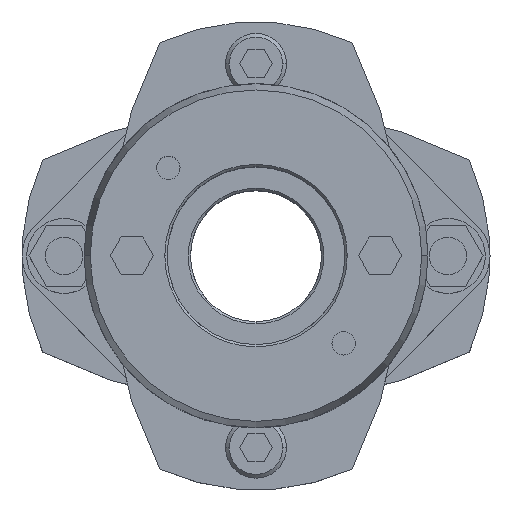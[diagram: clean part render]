
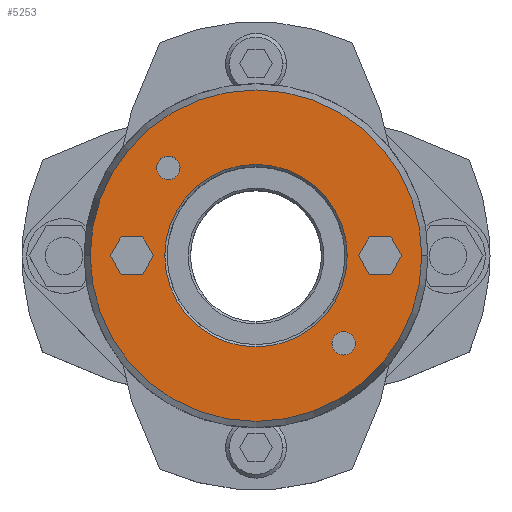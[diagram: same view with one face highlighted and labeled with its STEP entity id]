
A CAD part, top view. The second image highlights one B-rep face of the part: STEP entity #5253.
In plain terms, the highlighted planar face has unit normal (0, 0, 1).
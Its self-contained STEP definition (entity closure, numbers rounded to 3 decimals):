
#857=CARTESIAN_POINT('',(-19.5,0.,42.0));
#858=VERTEX_POINT('',#857);
#874=CARTESIAN_POINT('',(19.5,0.,42.0));
#875=VERTEX_POINT('',#874);
#882=CARTESIAN_POINT('',(0.,0.,42.0));
#883=DIRECTION('',(0.0,0.0,1.0));
#884=DIRECTION('',(-1.0,0.0,0.0));
#885=AXIS2_PLACEMENT_3D('',#882,#883,#884);
#886=CIRCLE('',#885,19.5);
#887=EDGE_CURVE('',#875,#858,#886,.T.);
#1003=CARTESIAN_POINT('',(35.41,0.,42.0));
#1004=VERTEX_POINT('',#1003);
#1013=CARTESIAN_POINT('',(-35.41,0.,42.0));
#1014=VERTEX_POINT('',#1013);
#1015=CARTESIAN_POINT('',(0.,0.,42.0));
#1016=DIRECTION('',(0.0,0.0,-1.0));
#1017=DIRECTION('',(1.0,0.0,0.0));
#1018=AXIS2_PLACEMENT_3D('',#1015,#1016,#1017);
#1019=CIRCLE('',#1018,35.41);
#1020=EDGE_CURVE('',#1004,#1014,#1019,.T.);
#1189=CARTESIAN_POINT('',(-21.238,18.738,42.0));
#1190=VERTEX_POINT('',#1189);
#1206=CARTESIAN_POINT('',(-16.238,18.738,42.0));
#1207=VERTEX_POINT('',#1206);
#1214=CARTESIAN_POINT('',(-18.738,18.738,42.0));
#1215=DIRECTION('',(0.0,0.0,-1.0));
#1216=DIRECTION('',(-1.0,0.0,0.0));
#1217=AXIS2_PLACEMENT_3D('',#1214,#1215,#1216);
#1218=CIRCLE('',#1217,2.5);
#1219=EDGE_CURVE('',#1190,#1207,#1218,.T.);
#1231=CARTESIAN_POINT('',(16.238,-18.738,42.0));
#1232=VERTEX_POINT('',#1231);
#1248=CARTESIAN_POINT('',(21.238,-18.738,42.0));
#1249=VERTEX_POINT('',#1248);
#1256=CARTESIAN_POINT('',(18.738,-18.738,42.0));
#1257=DIRECTION('',(0.0,0.0,-1.0));
#1258=DIRECTION('',(-1.0,0.0,0.0));
#1259=AXIS2_PLACEMENT_3D('',#1256,#1257,#1258);
#1260=CIRCLE('',#1259,2.5);
#1261=EDGE_CURVE('',#1232,#1249,#1260,.T.);
#4379=CARTESIAN_POINT('',(21.881,0.,42.0));
#4380=VERTEX_POINT('',#4379);
#4387=CARTESIAN_POINT('',(24.191,-4.,42.0));
#4388=VERTEX_POINT('',#4387);
#4389=CARTESIAN_POINT('',(24.191,-4.,42.0));
#4390=DIRECTION('',(-0.5,0.866,0.0));
#4391=VECTOR('',#4390,4.619);
#4392=LINE('',#4389,#4391);
#4393=EDGE_CURVE('',#4388,#4380,#4392,.T.);
#4417=CARTESIAN_POINT('',(24.191,4.,42.0));
#4418=VERTEX_POINT('',#4417);
#4425=CARTESIAN_POINT('',(21.881,0.,42.0));
#4426=DIRECTION('',(0.5,0.866,0.0));
#4427=VECTOR('',#4426,4.619);
#4428=LINE('',#4425,#4427);
#4429=EDGE_CURVE('',#4380,#4418,#4428,.T.);
#4448=CARTESIAN_POINT('',(28.809,4.,42.0));
#4449=VERTEX_POINT('',#4448);
#4456=CARTESIAN_POINT('',(24.191,4.,42.0));
#4457=DIRECTION('',(1.0,0.0,0.0));
#4458=VECTOR('',#4457,4.619);
#4459=LINE('',#4456,#4458);
#4460=EDGE_CURVE('',#4418,#4449,#4459,.T.);
#4479=CARTESIAN_POINT('',(31.119,0.,42.0));
#4480=VERTEX_POINT('',#4479);
#4487=CARTESIAN_POINT('',(28.809,4.,42.0));
#4488=DIRECTION('',(0.5,-0.866,0.0));
#4489=VECTOR('',#4488,4.619);
#4490=LINE('',#4487,#4489);
#4491=EDGE_CURVE('',#4449,#4480,#4490,.T.);
#4510=CARTESIAN_POINT('',(28.809,-4.,42.0));
#4511=VERTEX_POINT('',#4510);
#4518=CARTESIAN_POINT('',(31.119,0.,42.0));
#4519=DIRECTION('',(-0.5,-0.866,0.0));
#4520=VECTOR('',#4519,4.619);
#4521=LINE('',#4518,#4520);
#4522=EDGE_CURVE('',#4480,#4511,#4521,.T.);
#4540=CARTESIAN_POINT('',(28.809,-4.,42.0));
#4541=DIRECTION('',(-1.0,0.0,0.0));
#4542=VECTOR('',#4541,4.619);
#4543=LINE('',#4540,#4542);
#4544=EDGE_CURVE('',#4511,#4388,#4543,.T.);
#4579=CARTESIAN_POINT('',(-31.119,0.,42.0));
#4580=VERTEX_POINT('',#4579);
#4587=CARTESIAN_POINT('',(-28.809,-4.,42.0));
#4588=VERTEX_POINT('',#4587);
#4589=CARTESIAN_POINT('',(-28.809,-4.,42.0));
#4590=DIRECTION('',(-0.5,0.866,0.0));
#4591=VECTOR('',#4590,4.619);
#4592=LINE('',#4589,#4591);
#4593=EDGE_CURVE('',#4588,#4580,#4592,.T.);
#4617=CARTESIAN_POINT('',(-28.809,4.,42.0));
#4618=VERTEX_POINT('',#4617);
#4625=CARTESIAN_POINT('',(-31.119,0.,42.0));
#4626=DIRECTION('',(0.5,0.866,0.0));
#4627=VECTOR('',#4626,4.619);
#4628=LINE('',#4625,#4627);
#4629=EDGE_CURVE('',#4580,#4618,#4628,.T.);
#4648=CARTESIAN_POINT('',(-24.191,4.,42.0));
#4649=VERTEX_POINT('',#4648);
#4656=CARTESIAN_POINT('',(-28.809,4.,42.0));
#4657=DIRECTION('',(1.0,0.0,0.0));
#4658=VECTOR('',#4657,4.619);
#4659=LINE('',#4656,#4658);
#4660=EDGE_CURVE('',#4618,#4649,#4659,.T.);
#4679=CARTESIAN_POINT('',(-21.881,0.,42.0));
#4680=VERTEX_POINT('',#4679);
#4687=CARTESIAN_POINT('',(-24.191,4.,42.0));
#4688=DIRECTION('',(0.5,-0.866,0.0));
#4689=VECTOR('',#4688,4.619);
#4690=LINE('',#4687,#4689);
#4691=EDGE_CURVE('',#4649,#4680,#4690,.T.);
#4710=CARTESIAN_POINT('',(-24.191,-4.,42.0));
#4711=VERTEX_POINT('',#4710);
#4718=CARTESIAN_POINT('',(-21.881,0.,42.0));
#4719=DIRECTION('',(-0.5,-0.866,0.0));
#4720=VECTOR('',#4719,4.619);
#4721=LINE('',#4718,#4720);
#4722=EDGE_CURVE('',#4680,#4711,#4721,.T.);
#4740=CARTESIAN_POINT('',(-24.191,-4.,42.0));
#4741=DIRECTION('',(-1.0,0.0,0.0));
#4742=VECTOR('',#4741,4.619);
#4743=LINE('',#4740,#4742);
#4744=EDGE_CURVE('',#4711,#4588,#4743,.T.);
#4770=CARTESIAN_POINT('',(18.738,-18.738,42.0));
#4771=DIRECTION('',(0.0,0.0,-1.0));
#4772=DIRECTION('',(-1.0,0.0,0.0));
#4773=AXIS2_PLACEMENT_3D('',#4770,#4771,#4772);
#4774=CIRCLE('',#4773,2.5);
#4775=EDGE_CURVE('',#1249,#1232,#4774,.T.);
#4804=CARTESIAN_POINT('',(-18.738,18.738,42.0));
#4805=DIRECTION('',(0.0,0.0,-1.0));
#4806=DIRECTION('',(-1.0,0.0,0.0));
#4807=AXIS2_PLACEMENT_3D('',#4804,#4805,#4806);
#4808=CIRCLE('',#4807,2.5);
#4809=EDGE_CURVE('',#1207,#1190,#4808,.T.);
#5200=CARTESIAN_POINT('',(0.,0.,42.0));
#5201=DIRECTION('',(0.0,0.0,-1.0));
#5202=DIRECTION('',(1.0,0.0,0.0));
#5203=AXIS2_PLACEMENT_3D('',#5200,#5201,#5202);
#5204=CIRCLE('',#5203,35.41);
#5205=EDGE_CURVE('',#1014,#1004,#5204,.T.);
#5210=CARTESIAN_POINT('',(-3.341,0.,42.0));
#5211=DIRECTION('',(0.0,0.0,1.0));
#5212=DIRECTION('',(-1.0,0.0,0.0));
#5213=AXIS2_PLACEMENT_3D('',#5210,#5211,#5212);
#5214=PLANE('',#5213);
#5215=ORIENTED_EDGE('',*,*,#5205,.F.);
#5216=ORIENTED_EDGE('',*,*,#1020,.F.);
#5217=EDGE_LOOP('',(#5215,#5216));
#5218=FACE_OUTER_BOUND('',#5217,.T.);
#5219=ORIENTED_EDGE('',*,*,#4393,.T.);
#5220=ORIENTED_EDGE('',*,*,#4429,.T.);
#5221=ORIENTED_EDGE('',*,*,#4460,.T.);
#5222=ORIENTED_EDGE('',*,*,#4491,.T.);
#5223=ORIENTED_EDGE('',*,*,#4522,.T.);
#5224=ORIENTED_EDGE('',*,*,#4544,.T.);
#5225=EDGE_LOOP('',(#5219,#5220,#5221,#5222,#5223,#5224));
#5226=FACE_BOUND('',#5225,.T.);
#5227=ORIENTED_EDGE('',*,*,#4593,.T.);
#5228=ORIENTED_EDGE('',*,*,#4629,.T.);
#5229=ORIENTED_EDGE('',*,*,#4660,.T.);
#5230=ORIENTED_EDGE('',*,*,#4691,.T.);
#5231=ORIENTED_EDGE('',*,*,#4722,.T.);
#5232=ORIENTED_EDGE('',*,*,#4744,.T.);
#5233=EDGE_LOOP('',(#5227,#5228,#5229,#5230,#5231,#5232));
#5234=FACE_BOUND('',#5233,.T.);
#5235=ORIENTED_EDGE('',*,*,#1261,.T.);
#5236=ORIENTED_EDGE('',*,*,#4775,.T.);
#5237=EDGE_LOOP('',(#5235,#5236));
#5238=FACE_BOUND('',#5237,.T.);
#5239=ORIENTED_EDGE('',*,*,#1219,.T.);
#5240=ORIENTED_EDGE('',*,*,#4809,.T.);
#5241=EDGE_LOOP('',(#5239,#5240));
#5242=FACE_BOUND('',#5241,.T.);
#5243=ORIENTED_EDGE('',*,*,#887,.F.);
#5244=CARTESIAN_POINT('',(0.,0.,42.0));
#5245=DIRECTION('',(0.0,0.0,1.0));
#5246=DIRECTION('',(-1.0,0.0,0.0));
#5247=AXIS2_PLACEMENT_3D('',#5244,#5245,#5246);
#5248=CIRCLE('',#5247,19.5);
#5249=EDGE_CURVE('',#858,#875,#5248,.T.);
#5250=ORIENTED_EDGE('',*,*,#5249,.F.);
#5251=EDGE_LOOP('',(#5243,#5250));
#5252=FACE_BOUND('',#5251,.T.);
#5253=ADVANCED_FACE('',(#5218,#5226,#5234,#5238,#5242,#5252),#5214,.T.);
